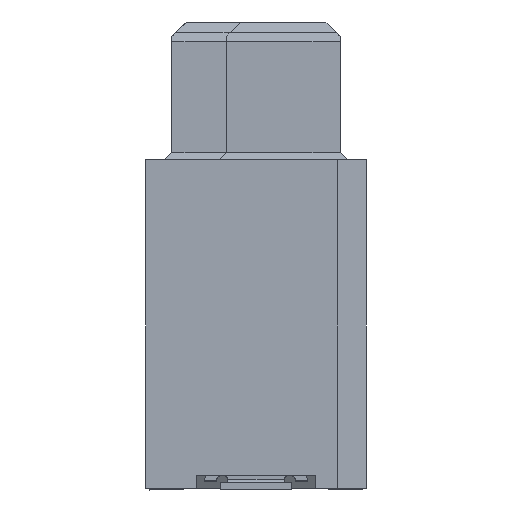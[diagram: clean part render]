
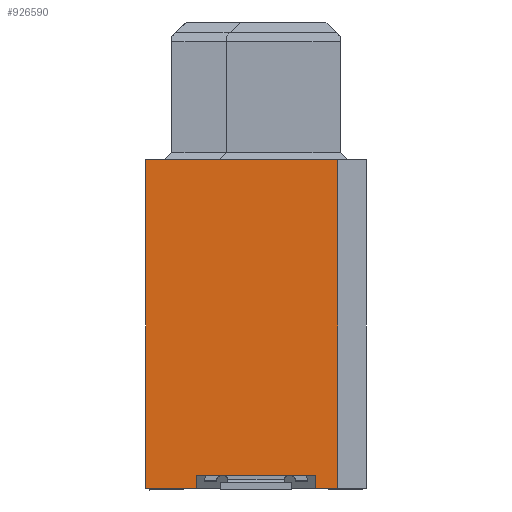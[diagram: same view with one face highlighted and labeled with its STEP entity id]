
A CAD part, left-side view. The second image highlights one B-rep face of the part: STEP entity #926590.
In plain terms, the highlighted planar face has unit normal (-1, 0, 0) as drawn and (0, 0, 1) by its records, which use the part's own axes.
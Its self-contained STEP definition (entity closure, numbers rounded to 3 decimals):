
#924090=CARTESIAN_POINT('',(5.4,4.25,27.31));
#924100=VERTEX_POINT('',#924090);
#924130=CARTESIAN_POINT('',(5.47,4.25,27.31));
#924140=DIRECTION('',(-1.,0.,0.));
#924150=VECTOR('',#924140,1.);
#924160=LINE('',#924130,#924150);
#924170=CARTESIAN_POINT('',(0.,4.25,27.31));
#924180=VERTEX_POINT('',#924170);
#924190=EDGE_CURVE('',#924100,#924180,#924160,.T.);
#924650=CARTESIAN_POINT('',(5.4,-5.,27.31));
#924660=VERTEX_POINT('',#924650);
#924690=CARTESIAN_POINT('',(5.4,2.125,27.31));
#924700=DIRECTION('',(0.,1.,0.));
#924710=VECTOR('',#924700,1.);
#924720=LINE('',#924690,#924710);
#924730=EDGE_CURVE('',#924660,#924100,#924720,.T.);
#924890=CARTESIAN_POINT('',(0.,-5.,27.31));
#924900=VERTEX_POINT('',#924890);
#924930=CARTESIAN_POINT('',(5.47,-5.,27.31));
#924940=DIRECTION('',(-1.,0.,0.));
#924950=VECTOR('',#924940,1.);
#924960=LINE('',#924930,#924950);
#924970=CARTESIAN_POINT('',(1.425,-5.,27.31));
#924980=VERTEX_POINT('',#924970);
#924990=EDGE_CURVE('',#924980,#924900,#924960,.T.);
#925210=CARTESIAN_POINT('',(4.775,-5.,27.31));
#925220=VERTEX_POINT('',#925210);
#925250=EDGE_CURVE('',#924660,#925220,#924960,.T.);
#926150=CARTESIAN_POINT('',(0.,-5.,27.31));
#926160=DIRECTION('',(0.,-1.,0.));
#926170=VECTOR('',#926160,1.);
#926180=LINE('',#926150,#926170);
#926190=EDGE_CURVE('',#924180,#924900,#926180,.T.);
#926250=CARTESIAN_POINT('',(5.47,-0.75,27.31));
#926260=DIRECTION('',(0.,-0.,1.));
#926270=DIRECTION('',(0.,1.,0.));
#926280=AXIS2_PLACEMENT_3D('',#926250,#926260,#926270);
#926290=PLANE('',#926280);
#926300=ORIENTED_EDGE('',*,*,#926190,.T.);
#926310=ORIENTED_EDGE('',*,*,#924190,.T.);
#926320=ORIENTED_EDGE('',*,*,#924730,.T.);
#926330=ORIENTED_EDGE('',*,*,#925250,.F.);
#926340=CARTESIAN_POINT('',(4.775,-5.,27.31));
#926350=DIRECTION('',(0.,-1.,0.));
#926360=VECTOR('',#926350,1.);
#926370=LINE('',#926340,#926360);
#926380=CARTESIAN_POINT('',(4.775,-4.63,27.31));
#926390=VERTEX_POINT('',#926380);
#926400=EDGE_CURVE('',#926390,#925220,#926370,.T.);
#926410=ORIENTED_EDGE('',*,*,#926400,.T.);
#926420=CARTESIAN_POINT('',(0.,-4.63,27.31));
#926430=DIRECTION('',(1.,0.,0.));
#926440=VECTOR('',#926430,1.);
#926450=LINE('',#926420,#926440);
#926460=CARTESIAN_POINT('',(1.425,-4.63,27.31));
#926470=VERTEX_POINT('',#926460);
#926480=EDGE_CURVE('',#926470,#926390,#926450,.T.);
#926490=ORIENTED_EDGE('',*,*,#926480,.T.);
#926500=CARTESIAN_POINT('',(1.425,-5.,27.31));
#926510=DIRECTION('',(0.,1.,0.));
#926520=VECTOR('',#926510,1.);
#926530=LINE('',#926500,#926520);
#926540=EDGE_CURVE('',#924980,#926470,#926530,.T.);
#926550=ORIENTED_EDGE('',*,*,#926540,.T.);
#926560=ORIENTED_EDGE('',*,*,#924990,.F.);
#926570=EDGE_LOOP('',(#926560,#926550,#926490,#926410,#926330,#926320,
#926310,#926300));
#926580=FACE_OUTER_BOUND('',#926570,.T.);
#926590=ADVANCED_FACE('',(#926580),#926290,.T.);
